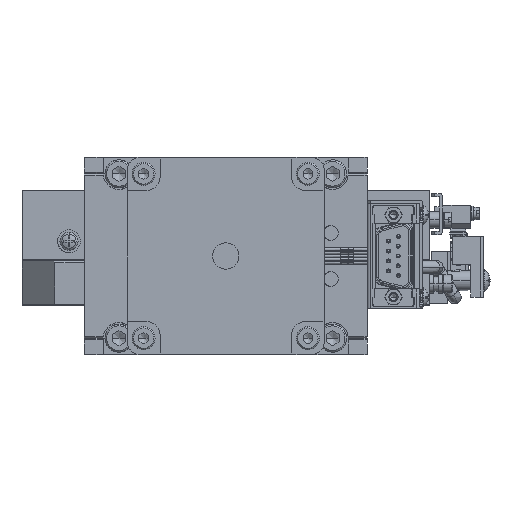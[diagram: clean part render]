
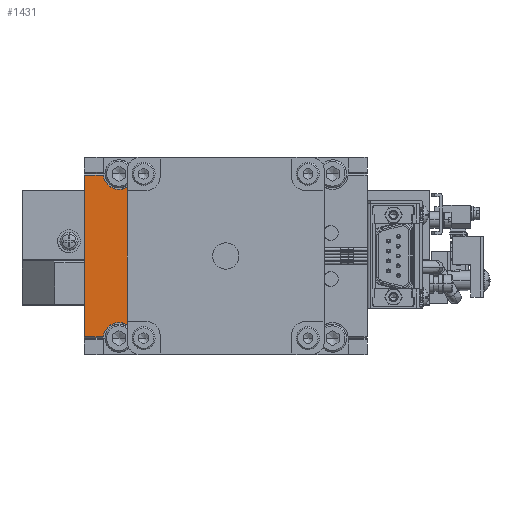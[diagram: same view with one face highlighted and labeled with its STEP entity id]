
A CAD part, left-side view. The second image highlights one B-rep face of the part: STEP entity #1431.
In plain terms, the highlighted planar face has unit normal (-1, 0, 0).
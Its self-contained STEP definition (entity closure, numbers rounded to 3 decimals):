
#1431=ADVANCED_FACE('',(#16336),#16335,.T.);
#16335=PLANE('',#39203);
#16336=FACE_OUTER_BOUND('',#39204,.T.);
#39200=CARTESIAN_POINT('',(-153.5,28.7,-14.4));
#39201=DIRECTION('',(-1.,0.,0.));
#39202=DIRECTION('',(0.,0.,1.));
#39203=AXIS2_PLACEMENT_3D('',#39200,#39201,#39202);
#39204=EDGE_LOOP('',(#56229,#56230,#56231,#56232,#56233,#56234));
#56229=ORIENTED_EDGE('',*,*,#64573,.F.);
#56230=ORIENTED_EDGE('',*,*,#64822,.F.);
#56231=ORIENTED_EDGE('',*,*,#67267,.T.);
#56232=ORIENTED_EDGE('',*,*,#64866,.T.);
#56233=ORIENTED_EDGE('',*,*,#67270,.F.);
#56234=ORIENTED_EDGE('',*,*,#64819,.F.);
#64573=EDGE_CURVE('',#78259,#77796,#78266,.T.);
#64819=EDGE_CURVE('',#77796,#79893,#79906,.T.);
#64822=EDGE_CURVE('',#79918,#78259,#79925,.T.);
#64866=EDGE_CURVE('',#80219,#80212,#80220,.T.);
#67267=EDGE_CURVE('',#79918,#80219,#96189,.T.);
#67270=EDGE_CURVE('',#79893,#80212,#96207,.T.);
#77796=VERTEX_POINT('',#119880);
#78259=VERTEX_POINT('',#120164);
#78266=LINE('',#120168,#120169);
#79893=VERTEX_POINT('',#121111);
#79906=CIRCLE('',#121121,4.75);
#79918=VERTEX_POINT('',#121126);
#79925=CIRCLE('',#121133,4.75);
#80212=VERTEX_POINT('',#121292);
#80219=VERTEX_POINT('',#121296);
#80220=LINE('',#121297,#121298);
#96189=LINE('',#131113,#131114);
#96207=LINE('',#131122,#131123);
#119880=CARTESIAN_POINT('',(-153.5,30.,-5.961));
#120164=CARTESIAN_POINT('',(-153.5,30.,35.961));
#120168=CARTESIAN_POINT('',(-153.5,30.,35.961));
#120169=VECTOR('',#120170,41.922);
#120170=DIRECTION('',(0.,0.,-1.));
#121111=CARTESIAN_POINT('',(-153.5,37.224,-9.5));
#121118=CARTESIAN_POINT('',(-153.5,32.5,-10.));
#121119=DIRECTION('',(-1.,0.,0.));
#121120=DIRECTION('',(0.,-0.526,0.85));
#121121=AXIS2_PLACEMENT_3D('',#121118,#121119,#121120);
#121126=CARTESIAN_POINT('',(-153.5,37.224,39.5));
#121130=CARTESIAN_POINT('',(-153.5,32.5,40.));
#121131=DIRECTION('',(-1.,0.,0.));
#121132=DIRECTION('',(0.,0.,1.));
#121133=AXIS2_PLACEMENT_3D('',#121130,#121131,#121132);
#121292=CARTESIAN_POINT('',(-153.5,43.,-9.5));
#121296=CARTESIAN_POINT('',(-153.5,43.,39.5));
#121297=CARTESIAN_POINT('',(-153.5,43.,39.5));
#121298=VECTOR('',#121299,49.);
#121299=DIRECTION('',(0.,0.,-1.));
#131113=CARTESIAN_POINT('',(-153.5,37.224,39.5));
#131114=VECTOR('',#131115,5.776);
#131115=DIRECTION('',(0.,1.,0.));
#131122=CARTESIAN_POINT('',(-153.5,37.224,-9.5));
#131123=VECTOR('',#131124,5.776);
#131124=DIRECTION('',(0.,1.,0.));
